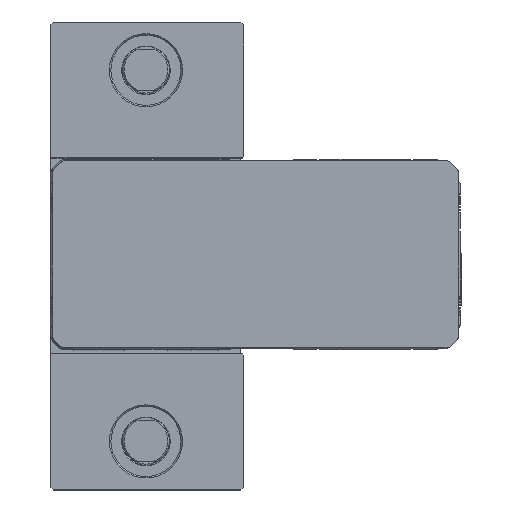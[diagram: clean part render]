
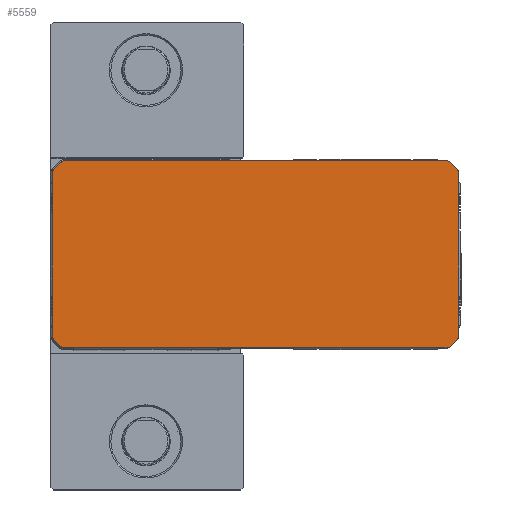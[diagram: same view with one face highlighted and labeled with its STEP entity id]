
A CAD part, top view. The second image highlights one B-rep face of the part: STEP entity #5559.
In plain terms, the highlighted planar face has unit normal (0, 0, 1).
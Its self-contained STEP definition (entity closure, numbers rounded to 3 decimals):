
#443 = CARTESIAN_POINT ( 'NONE',  ( -32., 28., 294. ) ) ;
#549 = DIRECTION ( 'NONE',  ( 0., -1., 0. ) ) ;
#1367 = LINE ( 'NONE', #21548, #21112 ) ;
#1527 = ORIENTED_EDGE ( 'NONE', *, *, #10954, .T. ) ;
#2074 = EDGE_CURVE ( 'NONE', #6934, #44002, #38321, .T. ) ;
#2244 = CARTESIAN_POINT ( 'NONE',  ( 104.061, 31.561, 294. ) ) ;
#3067 = DIRECTION ( 'NONE',  ( 0., 0., 1. ) ) ;
#4004 = ORIENTED_EDGE ( 'NONE', *, *, #25094, .T. ) ;
#4594 = DIRECTION ( 'NONE',  ( 0., 0., 1. ) ) ;
#4715 = AXIS2_PLACEMENT_3D ( 'NONE', #41342, #20407, #44836 ) ;
#5161 = FACE_OUTER_BOUND ( 'NONE', #44120, .T. ) ;
#5282 = CIRCLE ( 'NONE', #30841, 1.5 ) ;
#5559 = ADVANCED_FACE ( 'NONE', ( #5161 ), #28954, .T. ) ;
#5702 = ORIENTED_EDGE ( 'NONE', *, *, #19224, .T. ) ;
#5847 = LINE ( 'NONE', #26126, #42007 ) ;
#6476 = DIRECTION ( 'NONE',  ( 0., 0., 1. ) ) ;
#6822 = CARTESIAN_POINT ( 'NONE',  ( -31.561, -29.061, 294. ) ) ;
#6934 = VERTEX_POINT ( 'NONE', #2244 ) ;
#8241 = CIRCLE ( 'NONE', #35426, 1.5 ) ;
#8642 = CARTESIAN_POINT ( 'NONE',  ( 106.561, -29.061, 294. ) ) ;
#9651 = CARTESIAN_POINT ( 'NONE',  ( -31.561, -29.061, 294. ) ) ;
#9749 = EDGE_CURVE ( 'NONE', #13328, #10969, #12516, .T. ) ;
#10029 = CARTESIAN_POINT ( 'NONE',  ( 106.561, 29.061, 294. ) ) ;
#10127 = CIRCLE ( 'NONE', #4715, 1.5 ) ;
#10408 = EDGE_CURVE ( 'NONE', #30693, #24501, #13001, .T. ) ;
#10483 = CARTESIAN_POINT ( 'NONE',  ( 103., 30.5, 294. ) ) ;
#10684 = VECTOR ( 'NONE', #41760, 1000. ) ;
#10781 = VECTOR ( 'NONE', #40260, 1000. ) ;
#10954 = EDGE_CURVE ( 'NONE', #11598, #36368, #5282, .T. ) ;
#10969 = VERTEX_POINT ( 'NONE', #23946 ) ;
#11144 = DIRECTION ( 'NONE',  ( -0.707, -0.707, 0. ) ) ;
#11243 = VERTEX_POINT ( 'NONE', #15005 ) ;
#11560 = EDGE_CURVE ( 'NONE', #24501, #29297, #10127, .T. ) ;
#11598 = VERTEX_POINT ( 'NONE', #20546 ) ;
#11750 = VERTEX_POINT ( 'NONE', #443 ) ;
#11755 = EDGE_CURVE ( 'NONE', #36368, #40543, #27773, .T. ) ;
#11767 = CARTESIAN_POINT ( 'NONE',  ( -29.061, 31.561, 294. ) ) ;
#11983 = CARTESIAN_POINT ( 'NONE',  ( -28., -32., 294. ) ) ;
#12516 = LINE ( 'NONE', #11983, #38271 ) ;
#12783 = ORIENTED_EDGE ( 'NONE', *, *, #34864, .T. ) ;
#12961 = DIRECTION ( 'NONE',  ( 0., 0., 1. ) ) ;
#13001 = LINE ( 'NONE', #26351, #10781 ) ;
#13328 = VERTEX_POINT ( 'NONE', #15663 ) ;
#14005 = DIRECTION ( 'NONE',  ( 1., 0., 0. ) ) ;
#15003 = CARTESIAN_POINT ( 'NONE',  ( -30.5, -28., 294. ) ) ;
#15005 = CARTESIAN_POINT ( 'NONE',  ( 107., 28., 294. ) ) ;
#15137 = CARTESIAN_POINT ( 'NONE',  ( 103., 32., 294. ) ) ;
#15204 = CARTESIAN_POINT ( 'NONE',  ( 105.5, 28., 294. ) ) ;
#15487 = ORIENTED_EDGE ( 'NONE', *, *, #11560, .T. ) ;
#15663 = CARTESIAN_POINT ( 'NONE',  ( -28., -32., 294. ) ) ;
#15911 = AXIS2_PLACEMENT_3D ( 'NONE', #17355, #41882, #20926 ) ;
#16269 = VERTEX_POINT ( 'NONE', #42615 ) ;
#16582 = ORIENTED_EDGE ( 'NONE', *, *, #2074, .T. ) ;
#17355 = CARTESIAN_POINT ( 'NONE',  ( -30.5, 28., 294. ) ) ;
#17740 = CARTESIAN_POINT ( 'NONE',  ( 103., 32., 294. ) ) ;
#18262 = EDGE_CURVE ( 'NONE', #29297, #11243, #5847, .T. ) ;
#18694 = DIRECTION ( 'NONE',  ( -1., 0., 0. ) ) ;
#18768 = DIRECTION ( 'NONE',  ( 1., 0., 0. ) ) ;
#19224 = EDGE_CURVE ( 'NONE', #11750, #16269, #1367, .T. ) ;
#19502 = CARTESIAN_POINT ( 'NONE',  ( 103., -30.5, 294. ) ) ;
#20407 = DIRECTION ( 'NONE',  ( 0., 0., 1. ) ) ;
#20546 = CARTESIAN_POINT ( 'NONE',  ( -28., 32., 294. ) ) ;
#20559 = CIRCLE ( 'NONE', #15911, 1.5 ) ;
#20738 = VERTEX_POINT ( 'NONE', #44195 ) ;
#20926 = DIRECTION ( 'NONE',  ( 1., 0., 0. ) ) ;
#21112 = VECTOR ( 'NONE', #549, 1000. ) ;
#21446 = LINE ( 'NONE', #26712, #38965 ) ;
#21548 = CARTESIAN_POINT ( 'NONE',  ( -32., 28., 294. ) ) ;
#22019 = LINE ( 'NONE', #15137, #39544 ) ;
#22162 = ORIENTED_EDGE ( 'NONE', *, *, #11755, .T. ) ;
#22424 = DIRECTION ( 'NONE',  ( 1., 0., 0. ) ) ;
#22894 = ORIENTED_EDGE ( 'NONE', *, *, #18262, .T. ) ;
#23037 = DIRECTION ( 'NONE',  ( 1., 0., 0. ) ) ;
#23946 = CARTESIAN_POINT ( 'NONE',  ( 103., -32., 294. ) ) ;
#24030 = CARTESIAN_POINT ( 'NONE',  ( -30.5, -28., 294. ) ) ;
#24271 = EDGE_CURVE ( 'NONE', #28610, #20738, #30458, .T. ) ;
#24501 = VERTEX_POINT ( 'NONE', #8642 ) ;
#24713 = ORIENTED_EDGE ( 'NONE', *, *, #39139, .T. ) ;
#25094 = EDGE_CURVE ( 'NONE', #10969, #30693, #28152, .T. ) ;
#25490 = AXIS2_PLACEMENT_3D ( 'NONE', #33972, #12961, #37492 ) ;
#26126 = CARTESIAN_POINT ( 'NONE',  ( 107., -28., 294. ) ) ;
#26351 = CARTESIAN_POINT ( 'NONE',  ( 104.061, -31.561, 294. ) ) ;
#26685 = VECTOR ( 'NONE', #11144, 1000. ) ;
#26712 = CARTESIAN_POINT ( 'NONE',  ( 106.561, 29.061, 294. ) ) ;
#26953 = AXIS2_PLACEMENT_3D ( 'NONE', #15003, #4594, #29129 ) ;
#27099 = ORIENTED_EDGE ( 'NONE', *, *, #32087, .T. ) ;
#27181 = ORIENTED_EDGE ( 'NONE', *, *, #24271, .T. ) ;
#27481 = CARTESIAN_POINT ( 'NONE',  ( -28., 30.5, 294. ) ) ;
#27554 = DIRECTION ( 'NONE',  ( 1., 0., 0. ) ) ;
#27773 = LINE ( 'NONE', #32119, #26685 ) ;
#28152 = CIRCLE ( 'NONE', #42855, 1.5 ) ;
#28610 = VERTEX_POINT ( 'NONE', #9651 ) ;
#28954 = PLANE ( 'NONE',  #26953 ) ;
#29129 = DIRECTION ( 'NONE',  ( 1., 0., 0. ) ) ;
#29297 = VERTEX_POINT ( 'NONE', #38483 ) ;
#30046 = CIRCLE ( 'NONE', #25490, 1.5 ) ;
#30250 = DIRECTION ( 'NONE',  ( -0.707, 0.707, 0. ) ) ;
#30458 = LINE ( 'NONE', #6822, #10684 ) ;
#30572 = EDGE_CURVE ( 'NONE', #11243, #37180, #8241, .T. ) ;
#30630 = ORIENTED_EDGE ( 'NONE', *, *, #9749, .T. ) ;
#30693 = VERTEX_POINT ( 'NONE', #33479 ) ;
#30841 = AXIS2_PLACEMENT_3D ( 'NONE', #27481, #6476, #30992 ) ;
#30992 = DIRECTION ( 'NONE',  ( 1., 0., 0. ) ) ;
#32087 = EDGE_CURVE ( 'NONE', #20738, #13328, #30046, .T. ) ;
#32119 = CARTESIAN_POINT ( 'NONE',  ( -29.061, 31.561, 294. ) ) ;
#32617 = ORIENTED_EDGE ( 'NONE', *, *, #33989, .T. ) ;
#33479 = CARTESIAN_POINT ( 'NONE',  ( 104.061, -31.561, 294. ) ) ;
#33972 = CARTESIAN_POINT ( 'NONE',  ( -28., -30.5, 294. ) ) ;
#33989 = EDGE_CURVE ( 'NONE', #40543, #11750, #20559, .T. ) ;
#34388 = ORIENTED_EDGE ( 'NONE', *, *, #10408, .T. ) ;
#34442 = AXIS2_PLACEMENT_3D ( 'NONE', #24030, #3067, #27554 ) ;
#34864 = EDGE_CURVE ( 'NONE', #16269, #28610, #44598, .T. ) ;
#34993 = DIRECTION ( 'NONE',  ( 0., 0., 1. ) ) ;
#35096 = ORIENTED_EDGE ( 'NONE', *, *, #30572, .T. ) ;
#35426 = AXIS2_PLACEMENT_3D ( 'NONE', #15204, #39748, #18768 ) ;
#36368 = VERTEX_POINT ( 'NONE', #11767 ) ;
#37180 = VERTEX_POINT ( 'NONE', #10029 ) ;
#37492 = DIRECTION ( 'NONE',  ( 1., 0., 0. ) ) ;
#38271 = VECTOR ( 'NONE', #22424, 1000. ) ;
#38321 = CIRCLE ( 'NONE', #39143, 1.5 ) ;
#38483 = CARTESIAN_POINT ( 'NONE',  ( 107., -28., 294. ) ) ;
#38740 = EDGE_CURVE ( 'NONE', #37180, #6934, #21446, .T. ) ;
#38965 = VECTOR ( 'NONE', #30250, 1000. ) ;
#39139 = EDGE_CURVE ( 'NONE', #44002, #11598, #22019, .T. ) ;
#39143 = AXIS2_PLACEMENT_3D ( 'NONE', #10483, #34993, #14005 ) ;
#39544 = VECTOR ( 'NONE', #18694, 1000. ) ;
#39748 = DIRECTION ( 'NONE',  ( 0., 0., 1. ) ) ;
#40211 = DIRECTION ( 'NONE',  ( 0., 1., 0. ) ) ;
#40260 = DIRECTION ( 'NONE',  ( 0.707, 0.707, 0. ) ) ;
#40543 = VERTEX_POINT ( 'NONE', #42413 ) ;
#41342 = CARTESIAN_POINT ( 'NONE',  ( 105.5, -28., 294. ) ) ;
#41760 = DIRECTION ( 'NONE',  ( 0.707, -0.707, 0. ) ) ;
#41882 = DIRECTION ( 'NONE',  ( 0., 0., 1. ) ) ;
#42007 = VECTOR ( 'NONE', #40211, 1000. ) ;
#42413 = CARTESIAN_POINT ( 'NONE',  ( -31.561, 29.061, 294. ) ) ;
#42615 = CARTESIAN_POINT ( 'NONE',  ( -32., -28., 294. ) ) ;
#42855 = AXIS2_PLACEMENT_3D ( 'NONE', #19502, #43966, #23037 ) ;
#43352 = ORIENTED_EDGE ( 'NONE', *, *, #38740, .T. ) ;
#43966 = DIRECTION ( 'NONE',  ( 0., 0., 1. ) ) ;
#44002 = VERTEX_POINT ( 'NONE', #17740 ) ;
#44120 = EDGE_LOOP ( 'NONE', ( #12783, #27181, #27099, #30630, #4004, #34388, #15487, #22894, #35096, #43352, #16582, #24713, #1527, #22162, #32617, #5702 ) ) ;
#44195 = CARTESIAN_POINT ( 'NONE',  ( -29.061, -31.561, 294. ) ) ;
#44598 = CIRCLE ( 'NONE', #34442, 1.5 ) ;
#44836 = DIRECTION ( 'NONE',  ( 1., 0., 0. ) ) ;
